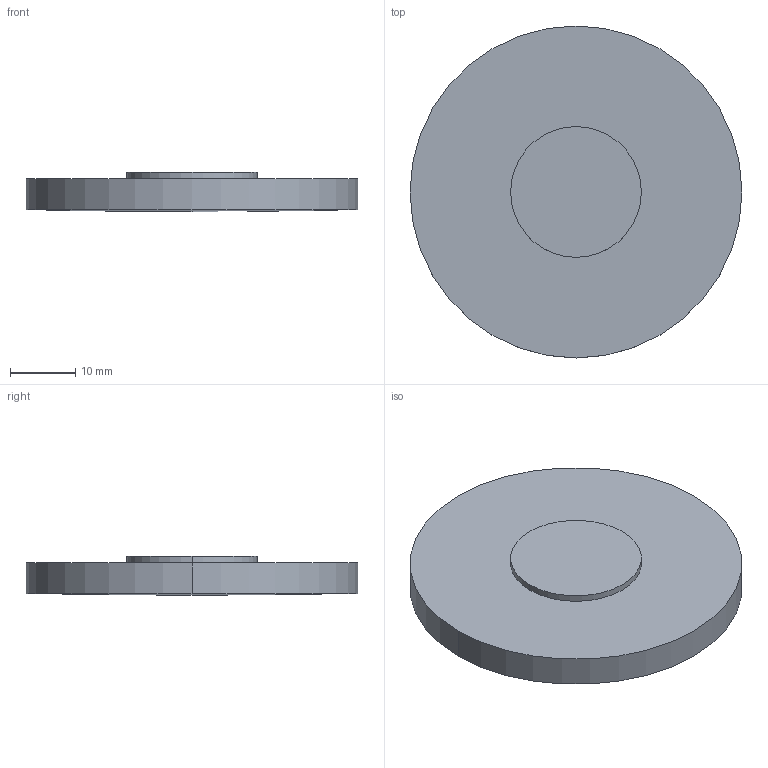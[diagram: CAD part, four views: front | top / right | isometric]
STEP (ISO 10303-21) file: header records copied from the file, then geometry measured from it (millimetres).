
FILE_DESCRIPTION(('STEP AP214'),'1');
FILE_NAME('LLU-51-2M.STEP','2020-03-09T17:42:13',(' '),(' '),'Spatial InterOp 3D',' ',' ');
FILE_SCHEMA(('AUTOMOTIVE_DESIGN { 1 0 10303 214 1 1 1 1 }'));
Length unit declared in the file: millimetre
Products named in the file (1): 1
Bounding box: 50.8 x 50.8 x 6 mm (x, y, z)
Volume: 10140 mm3; surface area: 5494.5 mm2
Topology: 2 solids, 2 shells, 9 faces, 16 edges, 9 vertices
Faces by surface type: cylinder 4, plane 3, sphere 2
Entity records: 229 total; most frequent: DIRECTION 46, CARTESIAN_POINT 34, ORIENTED_EDGE 28, AXIS2_PLACEMENT_3D 21, EDGE_CURVE 14, CIRCLE 10, ADVANCED_FACE 9, FACE_OUTER_BOUND 9
